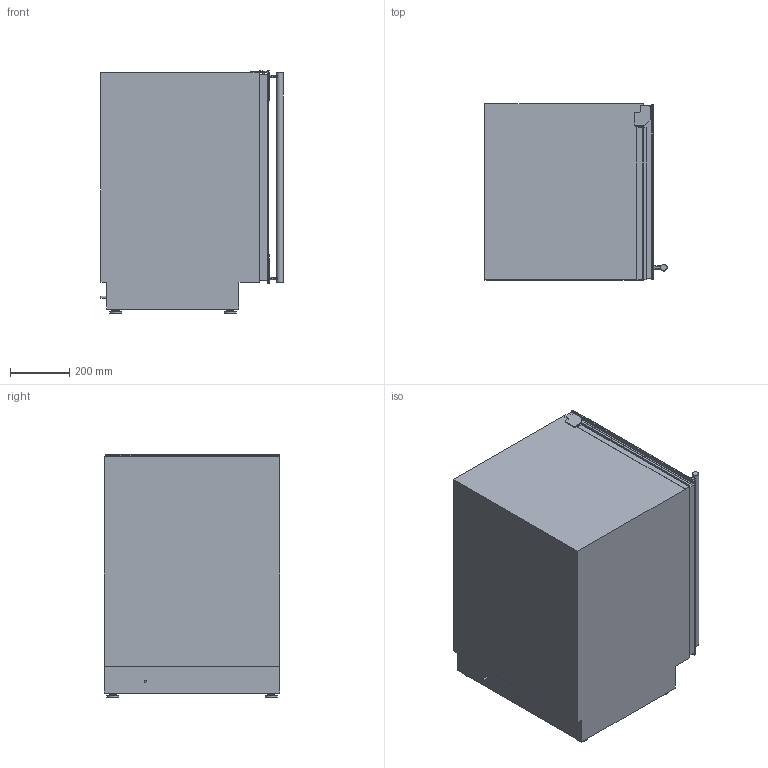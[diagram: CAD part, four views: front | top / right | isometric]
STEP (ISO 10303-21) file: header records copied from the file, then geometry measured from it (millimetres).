
FILE_DESCRIPTION(/* description */ (''),/* implementation_level */ '2;1');
FILE_NAME(/* name */ 'CVI338RX3.stp',/* time_stamp */ '2021-07-02T18:06:54+02:00',/* author */ (''),/* organization */ (''),/* preprocessor_version */ 'ST-DEVELOPER v16',/* originating_system */ 'SIEMENS PLM Software NX 11.0',/* authorisation */ '');
FILE_SCHEMA (('AUTOMOTIVE_DESIGN { 1 0 10303 214 3 1 1 1 }'));
Length unit declared in the file: millimetre
Products named in the file (1): mart5C049F29mier
Bounding box: 616.2 x 595 x 818.45 mm (x, y, z)
Volume: 263940375.7 mm3; surface area: 4544952.9 mm2
Topology: 17 solids, 17 shells, 189 faces, 417 edges, 276 vertices
Faces by surface type: plane 119, cylinder 55, extrusion 11, cone 4
Full cylindrical faces by diameter (mm): 4.608 x6, 6 x3, 7 x3, 10.58 x4, 22 x2, 40 x4
Entity records: 5469 total; most frequent: CARTESIAN_POINT 1199, DIRECTION 839, ORIENTED_EDGE 780, EDGE_CURVE 390, AXIS2_PLACEMENT_3D 290, VERTEX_POINT 276, VECTOR 259, LINE 248
